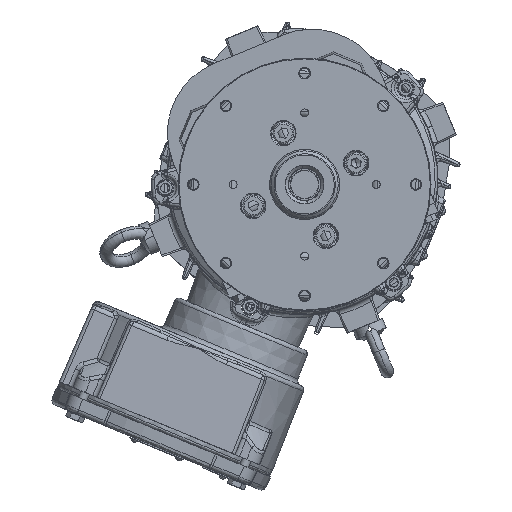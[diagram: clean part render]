
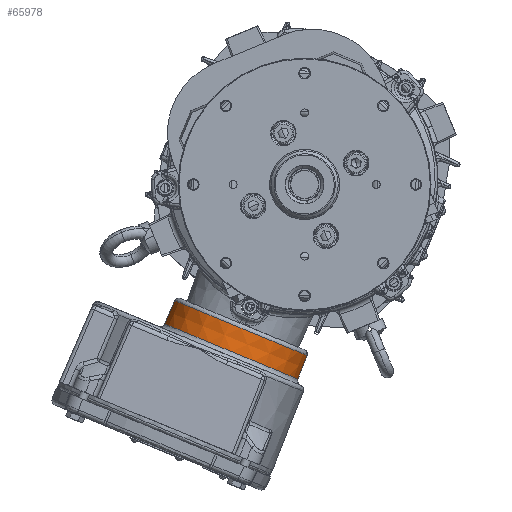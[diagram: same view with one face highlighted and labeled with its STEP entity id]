
A CAD part, front view. The second image highlights one B-rep face of the part: STEP entity #65978.
In plain terms, the highlighted conical face has half-angle 1 degrees and reference radius 45.324 mm.
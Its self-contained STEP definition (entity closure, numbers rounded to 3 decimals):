
#1057 = VERTEX_POINT ( 'NONE', #124028 ) ;
#4797 = CARTESIAN_POINT ( 'NONE',  ( -4.221, 409.2, -122.346 ) ) ;
#5018 = VERTEX_POINT ( 'NONE', #158105 ) ;
#7161 = ORIENTED_EDGE ( 'NONE', *, *, #20919, .T. ) ;
#8898 = EDGE_CURVE ( 'NONE', #135968, #1057, #130936, .T. ) ;
#10157 = VERTEX_POINT ( 'NONE', #27769 ) ;
#20919 = EDGE_CURVE ( 'NONE', #1057, #5018, #156084, .T. ) ;
#27769 = CARTESIAN_POINT ( 'NONE',  ( -4.221, 409.2, -122.346 ) ) ;
#28329 = CARTESIAN_POINT ( 'NONE',  ( -87.969, 409.2, -87.656 ) ) ;
#35244 = EDGE_LOOP ( 'NONE', ( #61594, #7161, #147290, #143262 ) ) ;
#38924 = DIRECTION ( 'NONE',  ( 0.924, 0., -0.383 ) ) ;
#45747 = CARTESIAN_POINT ( 'NONE',  ( -46.095, 409.2, -105.001 ) ) ;
#48416 = AXIS2_PLACEMENT_3D ( 'NONE', #128114, #90199, #74524 ) ;
#51063 = CIRCLE ( 'NONE', #48416, 45.324 ) ;
#52408 = VECTOR ( 'NONE', #55294, 1000. ) ;
#55294 = DIRECTION ( 'NONE',  ( -0.367, 0., -0.93 ) ) ;
#59852 = AXIS2_PLACEMENT_3D ( 'NONE', #133225, #60662, #158708 ) ;
#60662 = DIRECTION ( 'NONE',  ( -0.383, 0., -0.924 ) ) ;
#61594 = ORIENTED_EDGE ( 'NONE', *, *, #8898, .T. ) ;
#65978 = ADVANCED_FACE ( 'NONE', ( #100031 ), #140244, .T. ) ;
#66141 = DIRECTION ( 'NONE',  ( -0.383, 0., -0.924 ) ) ;
#66376 = DIRECTION ( 'NONE',  ( -0.399, 0., -0.917 ) ) ;
#74524 = DIRECTION ( 'NONE',  ( -0.924, 0., 0.383 ) ) ;
#79826 = AXIS2_PLACEMENT_3D ( 'NONE', #45747, #66141, #38924 ) ;
#85693 = VECTOR ( 'NONE', #66376, 1000. ) ;
#90199 = DIRECTION ( 'NONE',  ( 0.383, 0., 0.924 ) ) ;
#100031 = FACE_OUTER_BOUND ( 'NONE', #35244, .T. ) ;
#108426 = EDGE_CURVE ( 'NONE', #135968, #10157, #118020, .T. ) ;
#117803 = EDGE_CURVE ( 'NONE', #5018, #10157, #51063, .T. ) ;
#118020 = LINE ( 'NONE', #4797, #52408 ) ;
#124028 = CARTESIAN_POINT ( 'NONE',  ( -81.628, 409.2, -73.073 ) ) ;
#128114 = CARTESIAN_POINT ( 'NONE',  ( -46.095, 409.2, -105.001 ) ) ;
#130936 = CIRCLE ( 'NONE', #59852, 45.046 ) ;
#133225 = CARTESIAN_POINT ( 'NONE',  ( -40.011, 409.2, -90.312 ) ) ;
#135968 = VERTEX_POINT ( 'NONE', #144882 ) ;
#140244 = CONICAL_SURFACE ( 'NONE', #79826, 45.324, 0.017 ) ;
#143262 = ORIENTED_EDGE ( 'NONE', *, *, #108426, .F. ) ;
#144882 = CARTESIAN_POINT ( 'NONE',  ( 1.607, 409.2, -107.55 ) ) ;
#147290 = ORIENTED_EDGE ( 'NONE', *, *, #117803, .T. ) ;
#156084 = LINE ( 'NONE', #28329, #85693 ) ;
#158105 = CARTESIAN_POINT ( 'NONE',  ( -87.969, 409.2, -87.656 ) ) ;
#158708 = DIRECTION ( 'NONE',  ( -0.924, 0., 0.383 ) ) ;
